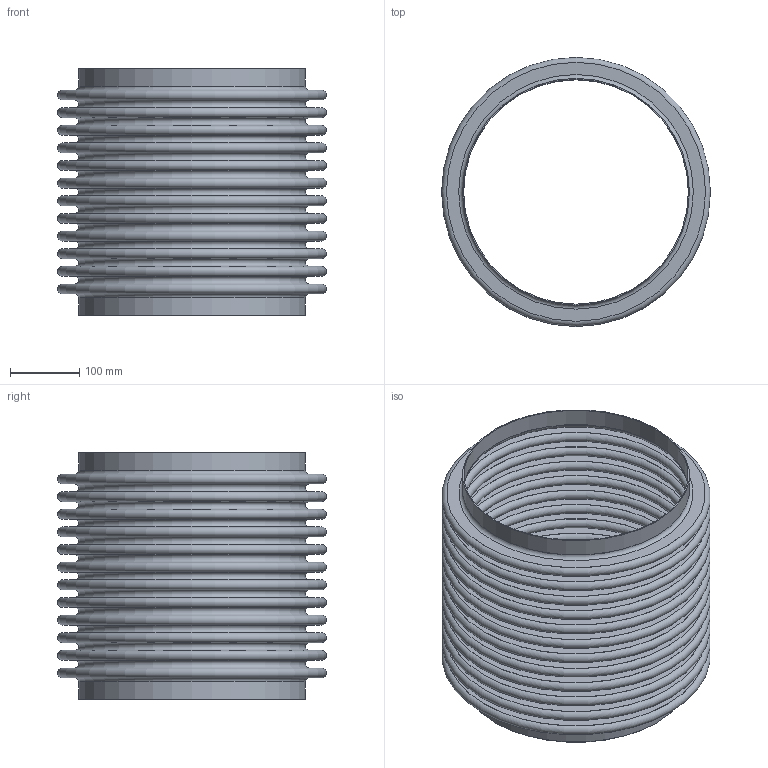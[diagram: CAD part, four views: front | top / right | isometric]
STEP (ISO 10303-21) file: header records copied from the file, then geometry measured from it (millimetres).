
FILE_DESCRIPTION(/* description */ ('STOCK BELLOWS: U.S-12-12-150L, 12.750 I.D., 15.250 O.D., 1 PLY, 16 GA (0.060 THICK), 12 CONS., 1.000 PITCH, 1.000 TANGENT. '),/* implementation_level */ '2;1');
FILE_NAME(/* name */ 'STOCK BELLOW - US-12-12-150L.stp',/* time_stamp */ '2026-07-21T13:03:44-05:00',/* author */ ('KennethB'),/* organization */ (''),/* preprocessor_version */ 'ST-DEVELOPER v20.1',/* originating_system */ 'Autodesk Inventor 2026',/* authorisation */ '');
FILE_SCHEMA (('AUTOMOTIVE_DESIGN { 1 0 10303 214 3 1 1 }'));
Length unit declared in the file: inch
Products named in the file (1): STOCK BELLOW - US-12-12-150L
Bounding box: 387.35 x 387.35 x 355.6 mm (x, y, z)
Volume: 1610403.9 mm3; surface area: 2122737.8 mm2
Topology: 3 solids, 3 shells, 108 faces, 162 edges, 109 vertices
Faces by surface type: plane 54, torus 50, cylinder 4
Full cylindrical faces by diameter (mm): 323.85 x2, 326.898 x2
Entity records: 2550 total; most frequent: DIRECTION 538, CARTESIAN_POINT 380, ORIENTED_EDGE 324, AXIS2_PLACEMENT_3D 267, EDGE_LOOP 162, EDGE_CURVE 162, CIRCLE 158, FACE_OUTER_BOUND 108
